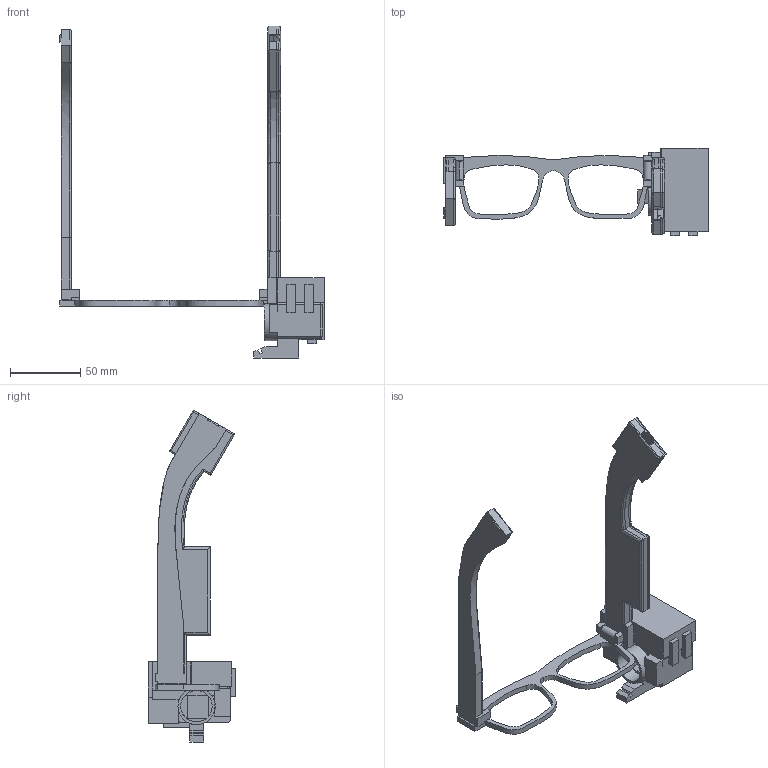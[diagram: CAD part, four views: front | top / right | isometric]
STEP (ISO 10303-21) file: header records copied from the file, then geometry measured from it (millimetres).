
FILE_DESCRIPTION(/* description */ (''),/* implementation_level */ '2;1');
FILE_NAME(/* name */ 'final_project_design.step',/* time_stamp */ '2026-06-11T10:31:24+09:00',/* author */ (''),/* organization */ (''),/* preprocessor_version */ 'ST-DEVELOPER v20.1',/* originating_system */ 'Autodesk Translation Framework v15.8.0.0',/* authorisation */ '');
FILE_SCHEMA (('AUTOMOTIVE_DESIGN { 1 0 10303 214 3 1 1 }'));
Length unit declared in the file: millimetre
Products named in the file (1): newglases_housing
Bounding box: 188 x 62.5 x 236.28 mm (x, y, z)
Volume: 90496.2 mm3; surface area: 80885.6 mm2
Topology: 22 solids, 22 shells, 1102 faces, 3077 edges, 2009 vertices
Faces by surface type: plane 579, bspline 440, cylinder 45, sphere 30, cone 8
Full cylindrical faces by diameter (mm): 3.9 x6, 4.1 x2, 22.4 x1, 26.4 x1
Entity records: 36911 total; most frequent: CARTESIAN_POINT 12791, ORIENTED_EDGE 6094, DIRECTION 3658, EDGE_CURVE 3047, VERTEX_POINT 2009, LINE 1970, VECTOR 1970, EDGE_LOOP 1174
